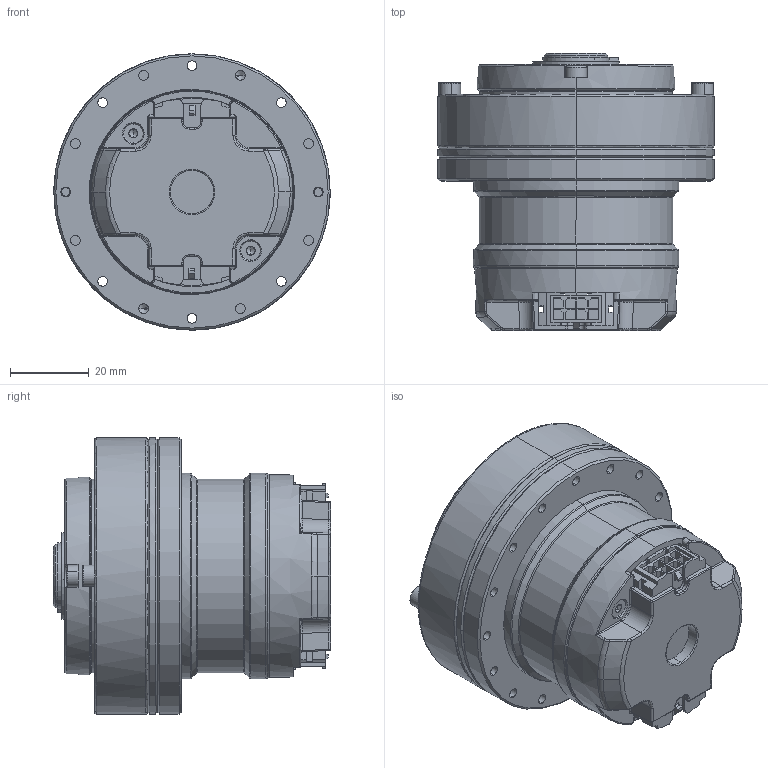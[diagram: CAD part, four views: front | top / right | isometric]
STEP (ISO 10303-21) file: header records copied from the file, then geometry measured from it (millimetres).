
FILE_DESCRIPTION (( 'STEP AP214' ), '1' );
FILE_NAME ('QDD_Pro-3510-30-70_v2_2.STEP', '2019-07-01T02:03:16', ( 'Microsoft' ), ( 'Microsoft' ), 'SwSTEP 2.0', 'SolidWorks 2018', '' );
FILE_SCHEMA (( 'AUTOMOTIVE_DESIGN' ));
Length unit declared in the file: millimetre
Products named in the file (1): QDD_Pro-3510-30-70_v2_2
Bounding box: 70 x 70.23 x 70 mm (x, y, z)
Volume: 132101.2 mm3; surface area: 82411.4 mm2
Topology: 109 solids, 109 shells, 2428 faces, 5762 edges, 3570 vertices
Faces by surface type: plane 1276, cylinder 583, cone 364, bspline 152, torus 48, sphere 5
Entity records: 108981 total; most frequent: CARTESIAN_POINT 27859, ORIENTED_EDGE 11400, DIRECTION 10025, EDGE_CURVE 5700, VERTEX_POINT 3570, VECTOR 3459, LINE 3459, AXIS2_PLACEMENT_3D 3283
